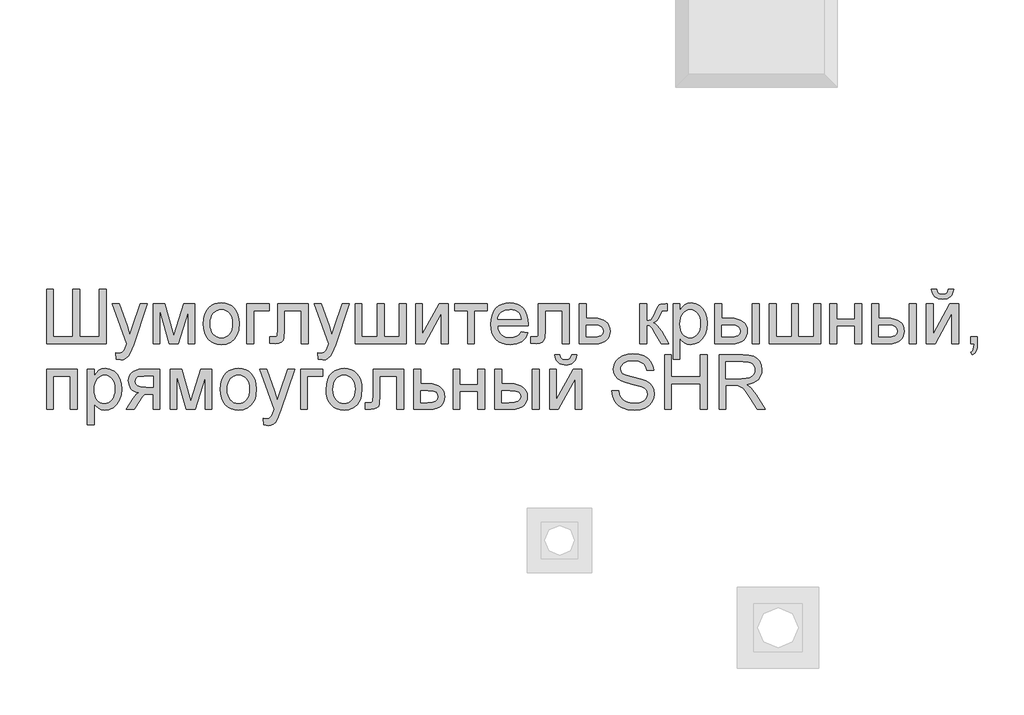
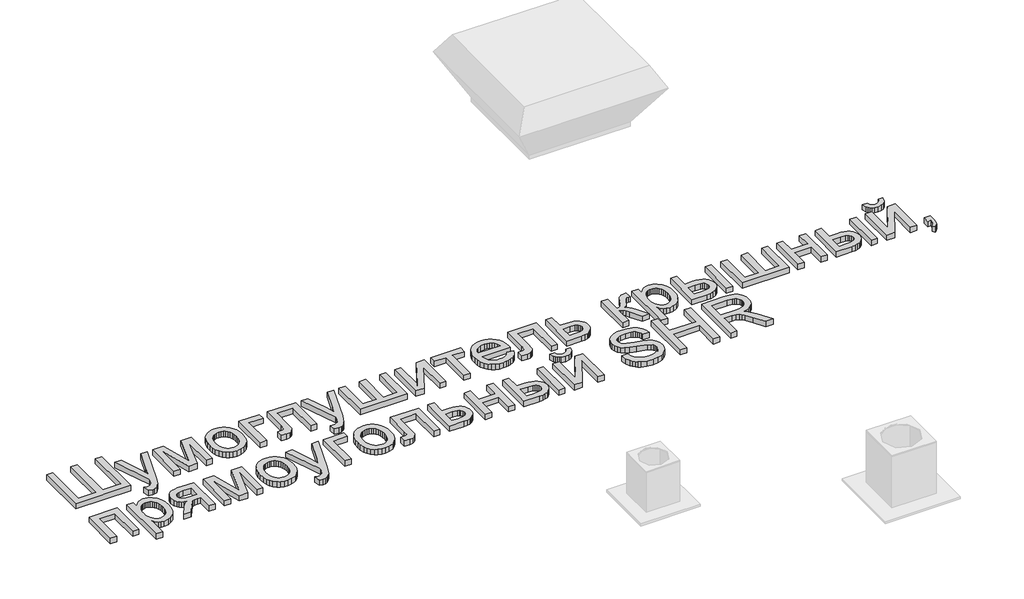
# One storey, part 27 of 31: 1 proxy.
"""IFC4 building model written with IfcOpenShell, lengths in millimetres."""

from ifc_helpers import new_model, si_unit, origin, origin_with_axes, place, context, project, spatial, polyline, outline, extrude, element, save

model = new_model("IFC4")

# Units and contexts
model_context = context("Model", 3, world=origin())
ifc_project = project(units=[si_unit("LENGTHUNIT", "METRE", prefix="MILLI")], contexts=[model_context])

# Site, building, storey
site = spatial("IfcSite", under=ifc_project)
building = spatial("IfcBuilding", under=site)
storey = spatial("IfcBuildingStorey", under=building, Name="Этаж 01", Elevation=0.0)

# Proxy
placement = place(None, origin())
element("IfcBuildingElementProxy", 1, Name="450 мм Arial", ObjectType="450 мм Arial", at=placement, inside=storey, context=model_context, shape_type="SweptSolid", body=[
    extrude(outline(polyline([(77236.6074945, -16028.5830609), (77292.8145123, -16028.5830609), (77292.8145123, -16422.0321859), (77454.4096886, -16422.0321859), (77454.4096886, -16028.5830609), (77510.6167065, -16028.5830609), (77510.6167065, -16422.0321859), (77672.2118828, -16422.0321859), (77672.2118828, -16028.5830609), (77728.4189007, -16028.5830609), (77728.4189007, -16478.2392037), (77236.6074945, -16478.2392037), (77236.6074945, -16028.5830609)])), origin_with_axes(), (0.0, 0.0, 1.0), 50.0),
    extrude(outline(polyline([(77812.7294275, -16604.7049939), (77805.7035502, -16550.5837834), (77834.2461765, -16555.5238533), (77849.2585001, -16553.9732202), (77860.9225541, -16549.321321), (77877.2796745, -16532.0310763), (77892.648781, -16490.6442682), (77897.0399542, -16477.0316311), (77777.6000413, -16148.0229739), (77836.8808804, -16148.0229739), (77900.2235549, -16331.3544579), (77922.2892005, -16404.6870515), (77944.3548462, -16339.9172457), (78009.4539899, -16148.0229739), (78068.2957118, -16148.0229739), (77953.3567514, -16486.1433156), (77923.4967732, -16559.4759092), (77908.2100012, -16582.8863517), (77890.8923117, -16599.106248), (77870.7752491, -16608.5747154), (77847.0903583, -16611.7308711), (77812.7294275, -16604.7049939)])), origin_with_axes(), (0.0, 0.0, 1.0), 50.0),
    extrude(outline(polyline([(78114.8421484, -16148.0229739), (78211.5577397, -16148.0229739), (78286.0979059, -16412.3716047), (78366.4563768, -16148.0229739), (78459.1101328, -16148.0229739), (78459.1101328, -16478.2392037), (78402.9031149, -16478.2392037), (78402.9031149, -16212.3536623), (78322.1055267, -16478.2392037), (78248.3338158, -16478.2392037), (78171.0491663, -16199.6192598), (78171.0491663, -16478.2392037), (78114.8421484, -16478.2392037), (78114.8421484, -16148.0229739)])), origin_with_axes(), (0.0, 0.0, 1.0), 50.0),
    extrude(outline(polyline([(78529.3689051, -16313.1310888), (78532.4084203, -16270.3651779), (78541.5269661, -16233.5136285), (78556.7245423, -16202.5764405), (78578.001149, -16177.5536141), (78599.4218411, -16161.5601377), (78623.0655647, -16150.136226), (78648.9323198, -16143.281879), (78677.0221063, -16140.9970966), (78708.0313369, -16143.7793166), (78736.0696643, -16152.1259764), (78761.1370886, -16166.0370761), (78783.2336097, -16185.5126156), (78801.2682956, -16209.8939191), (78814.150214, -16238.5223105), (78821.8793651, -16271.3977897), (78824.4557488, -16308.5203569), (78819.8999065, -16365.3037162), (78814.2051037, -16388.6112406), (78806.2323797, -16408.5293281), (78783.8511185, -16440.9005085), (78753.1540728, -16465.1205736), (78716.6936123, -16480.2289541), (78677.0221063, -16485.265081), (78645.5600359, -16482.4931528), (78617.2609825, -16474.1773685), (78592.1249462, -16460.3177278), (78570.1519268, -16440.9142309), (78552.3093548, -16416.2962158), (78539.5646605, -16386.7930204), (78531.9178439, -16352.4046447), (78529.3689051, -16313.1310888)]), holes=[polyline([(78585.5759229, -16313.0213095), (78587.2020293, -16340.2843204), (78592.0803483, -16363.8903073), (78600.2108801, -16383.8392703), (78611.5936245, -16400.1312092), (78625.4395428, -16412.7867078), (78640.9595958, -16421.8263496), (78658.1537836, -16427.2501347), (78677.0221063, -16429.0580631), (78695.794372, -16427.2398429), (78712.9199477, -16421.7851824), (78728.3988335, -16412.6940815), (78742.2310293, -16399.9665402), (78753.6137738, -16383.5133629), (78761.7443055, -16363.2453537), (78766.6226246, -16339.1625128), (78768.2487309, -16311.2648402), (78766.6123328, -16284.8663415), (78761.7031383, -16261.8778633), (78753.5211475, -16242.2994056), (78742.0663603, -16226.1309684), (78728.1827055, -16213.4754698), (78712.7141115, -16204.435828), (78695.6605784, -16199.0120428), (78677.0221063, -16197.2041145), (78658.1537836, -16199.0051816), (78640.9595958, -16204.4083831), (78625.4395428, -16213.4137189), (78611.5936245, -16226.0211891), (78600.2108801, -16242.2650996), (78592.0803483, -16262.1797565), (78587.2020293, -16285.7651598), (78585.5759229, -16313.0213095)])]), origin_with_axes(), (0.0, 0.0, 1.0), 50.0),
    extrude(outline(polyline([(78887.6886439, -16148.0229739), (79070.3614519, -16148.0229739), (79070.3614519, -16204.2299917), (78943.8956617, -16204.2299917), (78943.8956617, -16478.2392037), (78887.6886439, -16478.2392037), (78887.6886439, -16148.0229739)])), origin_with_axes(), (0.0, 0.0, 1.0), 50.0),
    extrude(outline(polyline([(79140.6202242, -16148.0229739), (79393.5518045, -16148.0229739), (79393.5518045, -16477.9098657), (79337.3447867, -16477.9098657), (79337.3447867, -16204.2299917), (79196.8272421, -16204.2299917), (79196.8272421, -16361.7633328), (79193.0398551, -16434.4372504), (79185.9453658, -16450.8904277), (79172.2366718, -16465.1205736), (79151.4334884, -16474.9595462), (79123.0555311, -16478.2392037), (79077.3873291, -16475.3849411), (79077.3873291, -16422.0321859), (79102.5267961, -16422.0321859), (79127.9407114, -16418.5741369), (79134.2941902, -16414.1006292), (79138.0952996, -16407.5962038), (79140.6202242, -16358.5797321), (79140.6202242, -16148.0229739)])), origin_with_axes(), (0.0, 0.0, 1.0), 50.0),
    extrude(outline(polyline([(79477.8623313, -16604.7049939), (79470.8364541, -16550.5837834), (79499.3790803, -16555.5238533), (79514.391404, -16553.9732202), (79526.055458, -16549.321321), (79542.4125784, -16532.0310763), (79557.7816848, -16490.6442682), (79562.1728581, -16477.0316311), (79442.7329452, -16148.0229739), (79502.0137843, -16148.0229739), (79565.3564587, -16331.3544579), (79587.4221044, -16404.6870515), (79609.4877501, -16339.9172457), (79674.5868938, -16148.0229739), (79733.4286156, -16148.0229739), (79618.4896553, -16486.1433156), (79588.6296771, -16559.4759092), (79573.3429051, -16582.8863517), (79556.0252155, -16599.106248), (79535.908153, -16608.5747154), (79512.2232622, -16611.7308711), (79477.8623313, -16604.7049939)])), origin_with_axes(), (0.0, 0.0, 1.0), 50.0),
    extrude(outline(polyline([(79779.9750523, -16148.0229739), (79836.1820701, -16148.0229739), (79836.1820701, -16422.0321859), (79962.6478603, -16422.0321859), (79962.6478603, -16148.0229739), (80018.8548782, -16148.0229739), (80018.8548782, -16422.0321859), (80145.3206683, -16422.0321859), (80145.3206683, -16148.0229739), (80201.5276862, -16148.0229739), (80201.5276862, -16478.2392037), (79779.9750523, -16478.2392037), (79779.9750523, -16148.0229739)])), origin_with_axes(), (0.0, 0.0, 1.0), 50.0),
    extrude(outline(polyline([(80278.8123357, -16148.0229739), (80335.0193536, -16148.0229739), (80335.0193536, -16399.8567609), (80473.1217529, -16148.0229739), (80545.7956705, -16148.0229739), (80545.7956705, -16478.2392037), (80489.5886527, -16478.2392037), (80489.5886527, -16227.9423274), (80352.364488, -16478.2392037), (80278.8123357, -16478.2392037), (80278.8123357, -16148.0229739)])), origin_with_axes(), (0.0, 0.0, 1.0), 50.0),
    extrude(outline(polyline([(80602.0026884, -16148.0229739), (80868.9860232, -16148.0229739), (80868.9860232, -16204.2299917), (80763.5978647, -16204.2299917), (80763.5978647, -16478.2392037), (80707.3908468, -16478.2392037), (80707.3908468, -16204.2299917), (80602.0026884, -16204.2299917), (80602.0026884, -16148.0229739)])), origin_with_axes(), (0.0, 0.0, 1.0), 50.0),
    extrude(outline(polyline([(81149.3624364, -16379.8769225), (81204.471661, -16386.9027997), (81196.022083, -16408.9753066), (81184.6153243, -16428.426832), (81170.2513849, -16445.2573758), (81152.9302647, -16459.466938), (81132.8303552, -16470.7536256), (81110.1300478, -16478.8155452), (81084.8293424, -16483.652697), (81056.9282391, -16485.265081), (81022.0527177, -16482.482861), (80990.9783056, -16474.1362012), (80963.7050028, -16460.2251015), (80940.2328095, -16440.7495619), (80921.3576256, -16416.251618), (80907.8753514, -16387.273305), (80899.7859869, -16353.814623), (80897.0895321, -16315.8755721), (80899.8134318, -16276.6500446), (80907.9851308, -16242.0764163), (80921.6046291, -16212.1546872), (80940.6719268, -16186.8848573), (80964.0823693, -16166.808962), (80990.7313021, -16152.4690368), (81020.6187251, -16143.8650817), (81053.7446385, -16140.9970966), (81085.803634, -16143.8582205), (81114.7956694, -16152.441592), (81140.7207447, -16166.7472111), (81163.5788599, -16186.775078), (81182.2379157, -16211.9900182), (81195.5658127, -16241.8568577), (81203.5625509, -16276.3755963), (81206.2281303, -16315.5462341), (81205.8987923, -16330.6957819), (80953.2965499, -16330.6957819), (80956.5521933, -16353.1250716), (80963.0257432, -16372.7687108), (80972.7171999, -16389.6266994), (80985.6265631, -16403.6990375), (81001.0402674, -16414.7936112), (81018.2447471, -16422.7183067), (81037.2400021, -16427.473124), (81058.0260324, -16429.0580631), (81087.9409003, -16426.121466), (81113.135257, -16417.3116746), (81133.6091023, -16402.0797923), (81149.3624364, -16379.8769225)]), holes=[polyline([(80953.2965499, -16274.488764), (81150.0211124, -16274.488764), (81142.4188937, -16244.7934548), (81127.5163494, -16223.5511541), (81112.1884102, -16212.0243243), (81094.7472189, -16203.7908744), (81075.1927754, -16198.8508045), (81053.5250798, -16197.2041145), (81015.637488, -16202.4598), (80984.3092112, -16218.2268565), (80971.8526876, -16229.626754), (80962.5317362, -16242.8037044), (80956.346357, -16257.7577077), (80953.2965499, -16274.488764)])]), origin_with_axes(), (0.0, 0.0, 1.0), 50.0),
    extrude(outline(polyline([(81290.5386571, -16148.0229739), (81543.4702374, -16148.0229739), (81543.4702374, -16477.9098657), (81487.2632195, -16477.9098657), (81487.2632195, -16204.2299917), (81346.7456749, -16204.2299917), (81346.7456749, -16361.7633328), (81342.958288, -16434.4372504), (81335.8637987, -16450.8904277), (81322.1551046, -16465.1205736), (81301.3519212, -16474.9595462), (81272.973964, -16478.2392037), (81227.305762, -16475.3849411), (81227.305762, -16422.0321859), (81252.4452289, -16422.0321859), (81277.8591442, -16418.5741369), (81284.2126231, -16414.1006292), (81288.0137324, -16407.5962038), (81290.5386571, -16358.5797321), (81290.5386571, -16148.0229739)])), origin_with_axes(), (0.0, 0.0, 1.0), 50.0),
    extrude(outline(polyline([(81627.7807642, -16148.0229739), (81683.987782, -16148.0229739), (81683.987782, -16267.4628868), (81748.7575878, -16267.4628868), (81778.6587332, -16269.2227867), (81804.9097159, -16274.5024864), (81827.5105359, -16283.301986), (81846.461193, -16295.6212854), (81861.4460718, -16311.0349897), (81872.1495566, -16329.117704), (81878.5716475, -16349.8694283), (81880.7123445, -16373.2901626), (81878.8906937, -16394.1859723), (81873.4257414, -16413.5105653), (81864.3174874, -16431.2639416), (81851.5659319, -16447.4461012), (81834.8074308, -16460.9180836), (81813.6783401, -16470.5409281), (81788.1786597, -16476.3146348), (81758.3083896, -16478.2392037), (81627.7807642, -16478.2392037), (81627.7807642, -16148.0229739)]), holes=[polyline([(81683.987782, -16422.0321859), (81736.4623026, -16422.0321859), (81777.1767123, -16419.0818663), (81804.2510399, -16410.2309077), (81819.441755, -16395.1225272), (81824.5053267, -16373.3999419), (81820.759107, -16355.0393487), (81809.5204479, -16338.8194524), (81799.753518, -16332.1915253), (81785.437607, -16327.4572916), (81743.1588418, -16323.6699046), (81683.987782, -16323.6699046), (81683.987782, -16422.0321859)])]), origin_with_axes(), (0.0, 0.0, 1.0), 50.0),
    extrude(outline(polyline([(82126.6180476, -16148.0229739), (82182.8250655, -16148.0229739), (82182.8250655, -16288.5405185), (82205.6866113, -16286.0155939), (82220.4793762, -16278.44082), (82233.5705616, -16258.6805403), (82251.3273685, -16219.5990982), (82265.6398488, -16187.6395902), (82276.9608424, -16168.8261572), (82287.5271031, -16158.5755121), (82299.5753848, -16152.3043678), (82340.6877445, -16148.0229739), (82351.446119, -16148.0229739), (82351.446119, -16204.5593297), (82336.2965712, -16204.2299917), (82318.7318782, -16205.7120127), (82308.8517383, -16210.1580756), (82289.5305759, -16247.1537104), (82277.6606857, -16271.8128928), (82266.8611439, -16287.1682768), (82253.783681, -16297.4189219), (82235.0800274, -16306.7638876), (82252.8917239, -16314.6748607), (82270.5387515, -16328.6374194), (82288.0211101, -16348.6515638), (82305.3387997, -16374.7172939), (82365.4978735, -16478.2392037), (82301.6063024, -16478.2392037), (82242.6548013, -16376.9128805), (82226.7367982, -16349.9483322), (82213.0143817, -16334.0440515), (82199.1547411, -16326.2634414), (82182.8250655, -16323.6699046), (82182.8250655, -16478.2392037), (82126.6180476, -16478.2392037), (82126.6180476, -16148.0229739)])), origin_with_axes(), (0.0, 0.0, 1.0), 50.0),
    extrude(outline(polyline([(82400.6272596, -16604.7049939), (82400.6272596, -16148.0229739), (82456.8342775, -16148.0229739), (82456.8342775, -16203.1321984), (82475.1674259, -16175.9480914), (82495.6961609, -16156.5308721), (82519.6280552, -16144.8805405), (82548.1706815, -16140.9970966), (82586.1817751, -16146.4311735), (82619.4174678, -16162.7334043), (82646.4780731, -16188.9157749), (82665.9639045, -16223.9902714), (82677.7377378, -16265.4045243), (82681.6623489, -16310.6061642), (82677.2300084, -16358.6757891), (82663.9329868, -16401.6681198), (82642.1966791, -16437.4012923), (82612.4464802, -16463.6934423), (82577.7973787, -16479.8721713), (82541.3643629, -16485.265081), (82515.5250527, -16481.6560854), (82492.4576706, -16470.8290988), (82472.7111133, -16454.4857008), (82456.8342775, -16434.327471), (82456.8342775, -16604.7049939), (82400.6272596, -16604.7049939)]), holes=[polyline([(82456.8342775, -16315.7657928), (82458.3540351, -16342.8538429), (82462.913308, -16366.154506), (82470.5120961, -16385.6677822), (82481.1503995, -16401.3936715), (82493.9568446, -16413.4968428), (82508.0600582, -16422.1419652), (82523.46004, -16427.3290386), (82540.1567903, -16429.0580631), (82557.0936828, -16427.2672878), (82572.7749742, -16421.8949617), (82587.2006645, -16412.941085), (82600.3707537, -16400.4056575), (82611.3452563, -16384.110288), (82619.1841867, -16363.8765849), (82623.887545, -16339.7045483), (82625.455331, -16311.5941782), (82623.9252816, -16284.7394091), (82619.3351333, -16261.4799132), (82611.6848861, -16241.8156904), (82600.9745401, -16225.7467407), (82588.1372195, -16213.2593417), (82574.1060486, -16204.339771), (82558.8810276, -16198.9880286), (82542.4621563, -16197.2041145), (82526.094744, -16199.1012386), (82510.6947621, -16204.7926108), (82496.2622106, -16214.2782312), (82482.7970894, -16227.5580997), (82471.4383592, -16244.453825), (82463.3249805, -16264.7870156), (82458.4569532, -16288.5576715), (82456.8342775, -16315.7657928)])]), origin_with_axes(), (0.0, 0.0, 1.0), 50.0),
    extrude(outline(polyline([(82744.895244, -16148.0229739), (82801.1022618, -16148.0229739), (82801.1022618, -16267.4628868), (82870.5925788, -16267.4628868), (82902.5692398, -16269.2227867), (82930.6555957, -16274.5024864), (82954.8516465, -16283.301986), (82975.1573923, -16295.6212854), (82991.2229114, -16311.0349897), (83002.6982822, -16329.117704), (83009.5835046, -16349.8694283), (83011.8785788, -16373.2901626), (83009.9540099, -16394.1859723), (83004.1803031, -16413.5105653), (82994.5574586, -16431.2639416), (82981.0854762, -16447.4461012), (82963.3869896, -16460.9180836), (82941.0846322, -16470.5409281), (82914.1784041, -16476.3146348), (82882.6683053, -16478.2392037), (82744.895244, -16478.2392037), (82744.895244, -16148.0229739)]), holes=[polyline([(82801.1022618, -16422.0321859), (82858.8461903, -16422.0321859), (82903.6087129, -16419.0818663), (82933.3863566, -16410.2309077), (82950.1002598, -16395.1225272), (82955.6715609, -16373.3999419), (82951.5411136, -16355.0393487), (82939.1497715, -16338.8194524), (82928.3948276, -16332.1915253), (82912.6517853, -16327.4572916), (82866.2014056, -16323.6699046), (82801.1022618, -16323.6699046), (82801.1022618, -16422.0321859)])]), origin_with_axes(), (0.0, 0.0, 1.0), 50.0),
    extrude(outline(polyline([(83054.0338422, -16148.0229739), (83110.24086, -16148.0229739), (83110.24086, -16478.2392037), (83054.0338422, -16478.2392037), (83054.0338422, -16148.0229739)])), origin_with_axes(), (0.0, 0.0, 1.0), 50.0),
    extrude(outline(polyline([(83194.5513868, -16148.0229739), (83250.7584047, -16148.0229739), (83250.7584047, -16422.0321859), (83377.2241948, -16422.0321859), (83377.2241948, -16148.0229739), (83433.4312127, -16148.0229739), (83433.4312127, -16422.0321859), (83559.8970028, -16422.0321859), (83559.8970028, -16148.0229739), (83616.1040207, -16148.0229739), (83616.1040207, -16478.2392037), (83194.5513868, -16478.2392037), (83194.5513868, -16148.0229739)])), origin_with_axes(), (0.0, 0.0, 1.0), 50.0),
    extrude(outline(polyline([(83693.3886702, -16148.0229739), (83749.5956881, -16148.0229739), (83749.5956881, -16274.488764), (83897.13911, -16274.488764), (83897.13911, -16148.0229739), (83953.3461278, -16148.0229739), (83953.3461278, -16478.2392037), (83897.13911, -16478.2392037), (83897.13911, -16330.6957819), (83749.5956881, -16330.6957819), (83749.5956881, -16478.2392037), (83693.3886702, -16478.2392037), (83693.3886702, -16148.0229739)])), origin_with_axes(), (0.0, 0.0, 1.0), 50.0),
    extrude(outline(polyline([(84346.7952528, -16148.0229739), (84403.0022706, -16148.0229739), (84403.0022706, -16478.2392037), (84346.7952528, -16478.2392037), (84346.7952528, -16148.0229739)])), origin_with_axes(), (0.0, 0.0, 1.0), 50.0),
    extrude(outline(polyline([(84037.6566546, -16148.0229739), (84093.8636724, -16148.0229739), (84093.8636724, -16267.4628868), (84163.3539894, -16267.4628868), (84195.3306504, -16269.2227867), (84223.4170063, -16274.5024864), (84247.6130571, -16283.301986), (84267.9188029, -16295.6212854), (84283.984322, -16311.0349897), (84295.4596928, -16329.117704), (84302.3449152, -16349.8694283), (84304.6399894, -16373.2901626), (84302.7154205, -16394.1859723), (84296.9417137, -16413.5105653), (84287.3188692, -16431.2639416), (84273.8468868, -16447.4461012), (84256.1484002, -16460.9180836), (84233.8460428, -16470.5409281), (84206.9398147, -16476.3146348), (84175.4297159, -16478.2392037), (84037.6566546, -16478.2392037), (84037.6566546, -16148.0229739)]), holes=[polyline([(84093.8636724, -16422.0321859), (84151.6076009, -16422.0321859), (84196.3701235, -16419.0818663), (84226.1477672, -16410.2309077), (84242.8616704, -16395.1225272), (84248.4329715, -16373.3999419), (84244.3025242, -16355.0393487), (84231.9111821, -16338.8194524), (84221.1562382, -16332.1915253), (84205.4131959, -16327.4572916), (84158.9628162, -16323.6699046), (84093.8636724, -16323.6699046), (84093.8636724, -16422.0321859)])]), origin_with_axes(), (0.0, 0.0, 1.0), 50.0),
    extrude(outline(polyline([(84487.3127974, -16148.0229739), (84543.5198153, -16148.0229739), (84543.5198153, -16399.8567609), (84681.6222146, -16148.0229739), (84754.2961322, -16148.0229739), (84754.2961322, -16478.2392037), (84698.0891143, -16478.2392037), (84698.0891143, -16227.9423274), (84560.8649497, -16478.2392037), (84487.3127974, -16478.2392037), (84487.3127974, -16148.0229739)])), origin_with_axes(), (0.0, 0.0, 1.0), 50.0),
    extrude(outline(polyline([(84669.9856054, -16028.5830609), (84712.1408688, -16028.5830609), (84703.0703515, -16064.5769593), (84695.1079194, -16079.0232333), (84684.8607049, -16091.1023903), (84672.5345443, -16100.6360392), (84658.3352738, -16107.4457884), (84624.3174034, -16112.8935877), (84587.4041031, -16107.4869556), (84572.0555803, -16100.7286655), (84558.7791424, -16091.2670593), (84547.7669031, -16079.2393613), (84539.2109765, -16064.7827956), (84529.4680608, -16028.5830609), (84571.6233242, -16028.5830609), (84577.5514081, -16047.0946007), (84587.431548, -16060.2543981), (84601.3186334, -16068.1173428), (84619.2675542, -16070.7383243), (84639.5218409, -16068.1996773), (84654.1773816, -16060.5837361), (84664.0575215, -16047.5062732), (84669.9856054, -16028.5830609)])), origin_with_axes(), (0.0, 0.0, 1.0), 50.0),
    extrude(outline(polyline([(84852.6584134, -16478.2392037), (84852.6584134, -16422.0321859), (84908.8654313, -16422.0321859), (84908.8654313, -16478.2392037), (84906.3405067, -16510.3908255), (84898.7657328, -16535.7086839), (84885.7019923, -16555.1259032), (84866.7101679, -16569.5756077), (84852.6584134, -16548.4979761), (84864.8439193, -16538.315943), (84873.2969278, -16524.2367437), (84878.4291116, -16504.7234675), (84880.652143, -16478.2392037), (84852.6584134, -16478.2392037)])), origin_with_axes(), (0.0, 0.0, 1.0), 50.0),
    extrude(outline(polyline([(77236.6074945, -16688.455057), (77489.5390748, -16688.455057), (77489.5390748, -17018.6712869), (77433.332057, -17018.6712869), (77433.332057, -16744.6620749), (77292.8145123, -16744.6620749), (77292.8145123, -17018.6712869), (77236.6074945, -17018.6712869), (77236.6074945, -16688.455057)])), origin_with_axes(), (0.0, 0.0, 1.0), 50.0),
    extrude(outline(polyline([(77573.8496016, -17145.1370771), (77573.8496016, -16688.455057), (77630.0566194, -16688.455057), (77630.0566194, -16743.5642816), (77648.3897678, -16716.3801745), (77668.9185029, -16696.9629552), (77692.8503972, -16685.3126237), (77721.3930234, -16681.4291798), (77759.4041171, -16686.8632567), (77792.6398097, -16703.1654875), (77819.700415, -16729.3478581), (77839.1862464, -16764.4223546), (77850.9600797, -16805.8366075), (77854.8846908, -16851.0382473), (77850.4523503, -16899.1078722), (77837.1553288, -16942.100203), (77815.4190211, -16977.8333755), (77785.6688222, -17004.1255255), (77751.0197206, -17020.3042545), (77714.5867049, -17025.6971641), (77688.7473947, -17022.0881686), (77665.6800126, -17011.261182), (77645.9334553, -16994.917784), (77630.0566194, -16974.7595542), (77630.0566194, -17145.1370771), (77573.8496016, -17145.1370771)]), holes=[polyline([(77630.0566194, -16856.1978759), (77631.5763771, -16883.285926), (77636.1356499, -16906.5865892), (77643.734438, -16926.0998654), (77654.3727414, -16941.8257547), (77667.1791866, -16953.928926), (77681.2824001, -16962.5740484), (77696.682382, -16967.7611218), (77713.3791322, -16969.4901463), (77730.3160248, -16967.6993709), (77745.9973162, -16962.3270449), (77760.4230065, -16953.3731682), (77773.5930957, -16940.8377407), (77784.5675983, -16924.5423712), (77792.4065287, -16904.3086681), (77797.1098869, -16880.1366315), (77798.677673, -16852.0262613), (77797.1476236, -16825.1714923), (77792.5574752, -16801.9119964), (77784.9072281, -16782.2477736), (77774.196882, -16766.1788239), (77761.3595614, -16753.6914249), (77747.3283906, -16744.7718542), (77732.1033695, -16739.4201118), (77715.6844982, -16737.6361977), (77699.317086, -16739.5333217), (77683.9171041, -16745.224694), (77669.4845526, -16754.7103143), (77656.0194314, -16767.9901829), (77644.6607012, -16784.8859082), (77636.5473224, -16805.2190988), (77631.6792952, -16828.9897547), (77630.0566194, -16856.1978759)])]), origin_with_axes(), (0.0, 0.0, 1.0), 50.0),
    extrude(outline(polyline([(78171.0491663, -16688.455057), (78171.0491663, -17018.6712869), (78114.8421484, -17018.6712869), (78114.8421484, -16892.2054968), (78084.2137149, -16892.2054968), (78059.7878135, -16893.9894109), (78042.4975688, -16899.3411533), (78025.8385552, -16914.9023736), (78003.3063474, -16947.3147213), (77958.51638, -17018.6712869), (77893.5270156, -17018.6712869), (77949.9535921, -16928.4326762), (77974.8735004, -16896.0477734), (77986.5924441, -16886.6067508), (77997.8173808, -16881.6666809), (77977.1788664, -16877.1039774), (77959.3946147, -16869.8928476), (77944.4646255, -16860.0332913), (77932.3888991, -16847.5253087), (77916.4160063, -16817.7751098), (77911.0917087, -16783.8532963), (77912.9099289, -16763.612732), (77918.3645894, -16745.3756405), (77927.4556903, -16729.1420219), (77940.1832316, -16714.911876), (77956.3550994, -16703.3370177), (77975.7791799, -16695.0692618), (77998.4554731, -16690.1086082), (78024.3839791, -16688.455057), (78171.0491663, -16688.455057)]), holes=[polyline([(78114.8421484, -16744.6620749), (78040.7410995, -16744.6620749), (78002.46928, -16747.9142876), (77989.539333, -16751.9795535), (77980.7466947, -16757.6709257), (77970.6607186, -16771.7912922), (77967.2987265, -16788.1346903), (77972.2525189, -16809.5553824), (77987.1138959, -16824.4167594), (78014.5724513, -16833.103049), (78057.3177786, -16835.9984789), (78114.8421484, -16835.9984789), (78114.8421484, -16744.6620749)])]), origin_with_axes(), (0.0, 0.0, 1.0), 50.0),
    extrude(outline(polyline([(78255.359693, -16688.455057), (78352.0752843, -16688.455057), (78426.6154506, -16952.8036879), (78506.9739214, -16688.455057), (78599.6276774, -16688.455057), (78599.6276774, -17018.6712869), (78543.4206595, -17018.6712869), (78543.4206595, -16752.7857454), (78462.6230714, -17018.6712869), (78388.8513604, -17018.6712869), (78311.5667109, -16740.051343), (78311.5667109, -17018.6712869), (78255.359693, -17018.6712869), (78255.359693, -16688.455057)])), origin_with_axes(), (0.0, 0.0, 1.0), 50.0),
    extrude(outline(polyline([(78669.8864497, -16853.563172), (78672.9259649, -16810.7972611), (78682.0445107, -16773.9457116), (78697.2420869, -16743.0085237), (78718.5186937, -16717.9856973), (78739.9393858, -16701.9922209), (78763.5831093, -16690.5683092), (78789.4498644, -16683.7139621), (78817.5396509, -16681.4291798), (78848.5488815, -16684.2113997), (78876.587209, -16692.5580596), (78901.6546332, -16706.4691593), (78923.7511544, -16725.9446988), (78941.7858402, -16750.3260023), (78954.6677587, -16778.9543936), (78962.3969097, -16811.8298729), (78964.9732934, -16848.95244), (78960.4174512, -16905.7357994), (78954.7226483, -16929.0433238), (78946.7499244, -16948.9614113), (78924.3686631, -16981.3325917), (78893.6716175, -17005.5526568), (78857.2111569, -17020.6610373), (78817.5396509, -17025.6971641), (78786.0775805, -17022.925236), (78757.7785272, -17014.6094516), (78732.6424908, -17000.749811), (78710.6694714, -16981.3463141), (78692.8268994, -16956.728299), (78680.0822051, -16927.2251036), (78672.4353886, -16892.8367279), (78669.8864497, -16853.563172)]), holes=[polyline([(78726.0934676, -16853.4533926), (78727.7195739, -16880.7164036), (78732.597893, -16904.3223905), (78740.7284247, -16924.2713534), (78752.1111692, -16940.5632924), (78765.9570874, -16953.218791), (78781.4771404, -16962.2584328), (78798.6713283, -16967.6822179), (78817.5396509, -16969.4901463), (78836.3119166, -16967.6719261), (78853.4374924, -16962.2172656), (78868.9163782, -16953.1261647), (78882.7485739, -16940.3986234), (78894.1313184, -16923.945446), (78902.2618502, -16903.6774369), (78907.1401692, -16879.594596), (78908.7662756, -16851.6969233), (78907.1298774, -16825.2984247), (78902.2206829, -16802.3099465), (78894.0386921, -16782.7314888), (78882.583905, -16766.5630516), (78868.7002501, -16753.907553), (78853.2316561, -16744.8679111), (78836.1781231, -16739.444126), (78817.5396509, -16737.6361977), (78798.6713283, -16739.4372648), (78781.4771404, -16744.8404663), (78765.9570874, -16753.8458021), (78752.1111692, -16766.4532722), (78740.7284247, -16782.6971827), (78732.597893, -16802.6118396), (78727.7195739, -16826.1972429), (78726.0934676, -16853.4533926)])]), origin_with_axes(), (0.0, 0.0, 1.0), 50.0),
    extrude(outline(polyline([(79028.2061885, -17145.1370771), (79021.1803113, -17091.0158665), (79049.7229375, -17095.9559365), (79064.7352611, -17094.4053034), (79076.3993151, -17089.7534042), (79092.7564356, -17072.4631595), (79108.125542, -17031.0763514), (79112.5167153, -17017.4637143), (78993.0768024, -16688.455057), (79052.3576415, -16688.455057), (79115.7003159, -16871.786541), (79137.7659616, -16945.1191347), (79159.8316073, -16880.3493289), (79224.930751, -16688.455057), (79283.7724728, -16688.455057), (79168.8335125, -17026.5753988), (79138.9735342, -17099.9079924), (79123.6867623, -17123.3184349), (79106.3690727, -17139.5383312), (79086.2520102, -17149.0067985), (79062.5671193, -17152.1629543), (79028.2061885, -17145.1370771)])), origin_with_axes(), (0.0, 0.0, 1.0), 50.0),
    extrude(outline(polyline([(79330.3189095, -16688.455057), (79512.9917175, -16688.455057), (79512.9917175, -16744.6620749), (79386.5259273, -16744.6620749), (79386.5259273, -17018.6712869), (79330.3189095, -17018.6712869), (79330.3189095, -16688.455057)])), origin_with_axes(), (0.0, 0.0, 1.0), 50.0),
    extrude(outline(polyline([(79541.0952264, -16853.563172), (79544.1347417, -16810.7972611), (79553.2532874, -16773.9457116), (79568.4508636, -16743.0085237), (79589.7274704, -16717.9856973), (79611.1481625, -16701.9922209), (79634.7918861, -16690.5683092), (79660.6586411, -16683.7139621), (79688.7484276, -16681.4291798), (79719.7576582, -16684.2113997), (79747.7959857, -16692.5580596), (79772.8634099, -16706.4691593), (79794.9599311, -16725.9446988), (79812.9946169, -16750.3260023), (79825.8765354, -16778.9543936), (79833.6056864, -16811.8298729), (79836.1820701, -16848.95244), (79831.6262279, -16905.7357994), (79825.931425, -16929.0433238), (79817.9587011, -16948.9614113), (79795.5774398, -16981.3325917), (79764.8803942, -17005.5526568), (79728.4199336, -17020.6610373), (79688.7484276, -17025.6971641), (79657.2863572, -17022.925236), (79628.9873039, -17014.6094516), (79603.8512675, -17000.749811), (79581.8782482, -16981.3463141), (79564.0356761, -16956.728299), (79551.2909818, -16927.2251036), (79543.6441653, -16892.8367279), (79541.0952264, -16853.563172)]), holes=[polyline([(79597.3022443, -16853.4533926), (79598.9283506, -16880.7164036), (79603.8066697, -16904.3223905), (79611.9372014, -16924.2713534), (79623.3199459, -16940.5632924), (79637.1658641, -16953.218791), (79652.6859171, -16962.2584328), (79669.880105, -16967.6822179), (79688.7484276, -16969.4901463), (79707.5206933, -16967.6719261), (79724.6462691, -16962.2172656), (79740.1251549, -16953.1261647), (79753.9573507, -16940.3986234), (79765.3400951, -16923.945446), (79773.4706269, -16903.6774369), (79778.3489459, -16879.594596), (79779.9750523, -16851.6969233), (79778.3386541, -16825.2984247), (79773.4294596, -16802.3099465), (79765.2474688, -16782.7314888), (79753.7926817, -16766.5630516), (79739.9090268, -16753.907553), (79724.4404328, -16744.8679111), (79707.3868998, -16739.444126), (79688.7484276, -16737.6361977), (79669.880105, -16739.4372648), (79652.6859171, -16744.8404663), (79637.1658641, -16753.8458021), (79623.3199459, -16766.4532722), (79611.9372014, -16782.6971827), (79603.8066697, -16802.6118396), (79598.9283506, -16826.1972429), (79597.3022443, -16853.4533926)])]), origin_with_axes(), (0.0, 0.0, 1.0), 50.0),
    extrude(outline(polyline([(79927.5184741, -16688.455057), (80180.4500545, -16688.455057), (80180.4500545, -17018.3419489), (80124.2430366, -17018.3419489), (80124.2430366, -16744.6620749), (79983.725492, -16744.6620749), (79983.725492, -16902.1954159), (79979.9381051, -16974.8693336), (79972.8436157, -16991.3225109), (79959.1349217, -17005.5526568), (79938.3317383, -17015.3916294), (79909.9537811, -17018.6712869), (79864.2855791, -17015.8170243), (79864.2855791, -16962.4642691), (79889.425046, -16962.4642691), (79914.8389613, -16959.0062201), (79921.1924402, -16954.5327123), (79924.9935495, -16948.0282869), (79927.5184741, -16899.0118153), (79927.5184741, -16688.455057)])), origin_with_axes(), (0.0, 0.0, 1.0), 50.0),
    extrude(outline(polyline([(80264.7605813, -16688.455057), (80320.9675991, -16688.455057), (80320.9675991, -16807.89497), (80385.7374048, -16807.89497), (80415.6385503, -16809.6548699), (80441.889533, -16814.9345696), (80464.4903529, -16823.7340692), (80483.4410101, -16836.0533686), (80498.4258889, -16851.4670729), (80509.1293737, -16869.5497872), (80515.5514646, -16890.3015115), (80517.6921616, -16913.7222458), (80515.8705108, -16934.6180554), (80510.4055584, -16953.9426484), (80501.2973045, -16971.6960247), (80488.545749, -16987.8781844), (80471.7872479, -17001.3501667), (80450.6581571, -17010.9730113), (80425.1584767, -17016.746718), (80395.2882067, -17018.6712869), (80264.7605813, -17018.6712869), (80264.7605813, -16688.455057)]), holes=[polyline([(80320.9675991, -16962.4642691), (80373.4421197, -16962.4642691), (80414.1565293, -16959.5139495), (80441.230857, -16950.6629909), (80456.4215721, -16935.5546104), (80461.4851437, -16913.8320251), (80457.738924, -16895.4714319), (80446.500265, -16879.2515356), (80436.733335, -16872.6236085), (80422.4174241, -16867.8893748), (80380.1386589, -16864.1019878), (80320.9675991, -16864.1019878), (80320.9675991, -16962.4642691)])]), origin_with_axes(), (0.0, 0.0, 1.0), 50.0),
    extrude(outline(polyline([(80587.9509339, -16688.455057), (80644.1579518, -16688.455057), (80644.1579518, -16814.9208472), (80791.7013736, -16814.9208472), (80791.7013736, -16688.455057), (80847.9083915, -16688.455057), (80847.9083915, -17018.6712869), (80791.7013736, -17018.6712869), (80791.7013736, -16871.1278651), (80644.1579518, -16871.1278651), (80644.1579518, -17018.6712869), (80587.9509339, -17018.6712869), (80587.9509339, -16688.455057)])), origin_with_axes(), (0.0, 0.0, 1.0), 50.0),
    extrude(outline(polyline([(81241.3575164, -16688.455057), (81297.5645343, -16688.455057), (81297.5645343, -17018.6712869), (81241.3575164, -17018.6712869), (81241.3575164, -16688.455057)])), origin_with_axes(), (0.0, 0.0, 1.0), 50.0),
    extrude(outline(polyline([(80932.2189183, -16688.455057), (80988.4259361, -16688.455057), (80988.4259361, -16807.89497), (81057.9162531, -16807.89497), (81089.8929141, -16809.6548699), (81117.97927, -16814.9345696), (81142.1753208, -16823.7340692), (81162.4810666, -16836.0533686), (81178.5465857, -16851.4670729), (81190.0219564, -16869.5497872), (81196.9071789, -16890.3015115), (81199.202253, -16913.7222458), (81197.2776841, -16934.6180554), (81191.5039774, -16953.9426484), (81181.8811329, -16971.6960247), (81168.4091505, -16987.8781844), (81150.7106639, -17001.3501667), (81128.4083065, -17010.9730113), (81101.5020784, -17016.746718), (81069.9919796, -17018.6712869), (80932.2189183, -17018.6712869), (80932.2189183, -16688.455057)]), holes=[polyline([(80988.4259361, -16962.4642691), (81046.1698646, -16962.4642691), (81090.9323871, -16959.5139495), (81120.7100309, -16950.6629909), (81137.4239341, -16935.5546104), (81142.9952352, -16913.8320251), (81138.8647878, -16895.4714319), (81126.4734458, -16879.2515356), (81115.7185019, -16872.6236085), (81099.9754596, -16867.8893748), (81053.5250798, -16864.1019878), (80988.4259361, -16864.1019878), (80988.4259361, -16962.4642691)])]), origin_with_axes(), (0.0, 0.0, 1.0), 50.0),
    extrude(outline(polyline([(81381.8750611, -16688.455057), (81438.0820789, -16688.455057), (81438.0820789, -16940.2888441), (81576.1844783, -16688.455057), (81648.8583959, -16688.455057), (81648.8583959, -17018.6712869), (81592.651378, -17018.6712869), (81592.651378, -16768.3744105), (81455.4272133, -17018.6712869), (81381.8750611, -17018.6712869), (81381.8750611, -16688.455057)])), origin_with_axes(), (0.0, 0.0, 1.0), 50.0),
    extrude(outline(polyline([(81564.5478691, -16569.0151441), (81606.7031325, -16569.0151441), (81597.6326152, -16605.0090425), (81589.670183, -16619.4553164), (81579.4229685, -16631.5344735), (81567.0968079, -16641.0681224), (81552.8975375, -16647.8778715), (81518.8796671, -16653.3256709), (81481.9663668, -16647.9190388), (81466.617844, -16641.1607487), (81453.341406, -16631.6991425), (81442.3291668, -16619.6714445), (81433.7732401, -16605.2148787), (81424.0303245, -16569.0151441), (81466.1855878, -16569.0151441), (81472.1136718, -16587.5266839), (81481.9938116, -16600.6864813), (81495.8808971, -16608.5494259), (81513.8298178, -16611.1704075), (81534.0841045, -16608.6317604), (81548.7396453, -16601.0158193), (81558.6197852, -16587.9383564), (81564.5478691, -16569.0151441)])), origin_with_axes(), (0.0, 0.0, 1.0), 50.0),
    extrude(outline(polyline([(81894.764099, -16864.1019878), (81950.9711168, -16864.1019878), (81957.4206526, -16895.2930405), (81969.0847066, -16920.3638953), (81987.2806308, -16940.2613992), (82013.3257773, -16955.9323988), (82045.1617835, -16966.1007094), (82080.7302869, -16969.4901463), (82112.0448413, -16966.9240544), (82139.4622294, -16959.2257788), (82161.6788217, -16947.040273), (82177.3909885, -16931.0124905), (82186.7359542, -16912.61073), (82189.8509427, -16893.3032901), (82187.5181319, -16874.4898571), (82180.5196995, -16858.2287936), (82166.303276, -16844.3554305), (82142.316492, -16832.7050989), (82060.4760002, -16811.2432396), (82006.7527398, -16797.0405385), (81972.3780865, -16783.5239583), (81944.3980793, -16764.6144684), (81924.5691875, -16741.6980329), (81912.754187, -16715.2686588), (81908.8158534, -16685.8203531), (81913.6873113, -16652.900276), (81928.3016848, -16622.2032303), (81952.2747464, -16596.1855287), (81985.2222683, -16577.3034836), (82024.7702726, -16565.8178211), (82068.5447811, -16561.9892669), (82115.9694524, -16565.9962125), (82157.4660398, -16578.0170493), (82191.5525223, -16597.8047739), (82216.746879, -16625.1123826), (82232.6923269, -16658.238296), (82239.0320833, -16695.4809343), (82182.8250655, -16695.4809343), (82179.0651233, -16677.5457359), (82172.5058083, -16661.9433484), (82163.1471202, -16648.6737717), (82150.9890593, -16637.7370058), (82135.8052054, -16629.1879403), (82117.3691389, -16623.081465), (82070.7403678, -16618.1962847), (82023.0138033, -16623.0265753), (82004.7698506, -16629.0644386), (81990.2721176, -16637.5174471), (81971.3351829, -16658.8420823), (81966.6009492, -16671.0070045), (81965.0228713, -16684.1736631), (81969.4963791, -16705.7727466), (81982.9169024, -16723.1453259), (82014.6431292, -16738.6791013), (82074.6924237, -16754.5422147), (82136.6628565, -16769.609428), (82174.1524983, -16782.755503), (82206.1943407, -16803.1470139), (82228.5481571, -16828.3139257), (82241.6805097, -16857.9817901), (82246.0579605, -16891.8761588), (82241.0218337, -16926.5252603), (82225.9134532, -16959.1159994), (82201.3503277, -16987.1646187), (82167.949966, -17008.1873607), (82127.784453, -17021.3197133), (82082.9258736, -17025.6971641), (82027.8578163, -17020.9766529), (81982.5326747, -17006.8151191), (81963.3933343, -16996.1802463), (81946.428997, -16983.1576731), (81931.6396626, -16967.7473994), (81919.0253313, -16949.9494252), (81901.4331934, -16909.4957415), (81894.764099, -16864.1019878)])), origin_with_axes(), (0.0, 0.0, 1.0), 50.0),
    extrude(outline(polyline([(82330.3684873, -17018.6712869), (82330.3684873, -16569.0151441), (82386.5755052, -16569.0151441), (82386.5755052, -16751.6879521), (82625.455331, -16751.6879521), (82625.455331, -16569.0151441), (82681.6623489, -16569.0151441), (82681.6623489, -17018.6712869), (82625.455331, -17018.6712869), (82625.455331, -16807.89497), (82386.5755052, -16807.89497), (82386.5755052, -17018.6712869), (82330.3684873, -17018.6712869)])), origin_with_axes(), (0.0, 0.0, 1.0), 50.0),
    extrude(outline(polyline([(82780.0246301, -17018.6712869), (82780.0246301, -16569.0151441), (82973.7851507, -16569.0151441), (83025.8617212, -16572.0477981), (83063.749313, -16581.1457603), (83091.4411495, -16597.941998), (83112.9304537, -16624.069479), (83126.7214822, -16656.4681043), (83131.3184917, -16692.077775), (83129.4145064, -16715.1726019), (83123.7025506, -16736.3737353), (83114.1826242, -16755.6811753), (83100.8547272, -16773.0949218), (83083.5473294, -16788.059217), (83062.0889006, -16800.0183029), (83036.4794409, -16808.9721797), (83006.7189502, -16814.9208472), (83038.6647357, -16838.9625209), (83084.2231584, -16896.8162287), (83159.202442, -17018.6712869), (83093.8837396, -17018.6712869), (83035.3713558, -16925.4686343), (82993.1063131, -16863.7726498), (82977.3941462, -16845.7825618), (82963.4110038, -16834.6262373), (82936.6797365, -16823.9227524), (82904.075275, -16821.9467244), (82836.231648, -16821.9467244), (82836.231648, -17018.6712869), (82780.0246301, -17018.6712869)]), holes=[polyline([(82836.231648, -16765.7397066), (82962.0387622, -16765.7397066), (82998.1698847, -16763.7499562), (83026.2047816, -16757.780705), (83047.3098581, -16747.434003), (83062.6515197, -16732.3119001), (83071.9964853, -16714.0199189), (83075.1114739, -16694.1635823), (83073.6260223, -16679.789351), (83069.1696675, -16666.7461942), (83051.3442485, -16644.6531037), (83037.735042, -16636.1520667), (83020.6746477, -16630.0798974), (82976.200296, -16625.222162), (82836.231648, -16625.222162), (82836.231648, -16765.7397066)])]), origin_with_axes(), (0.0, 0.0, 1.0), 50.0),
])

save(model, "model.ifc")
